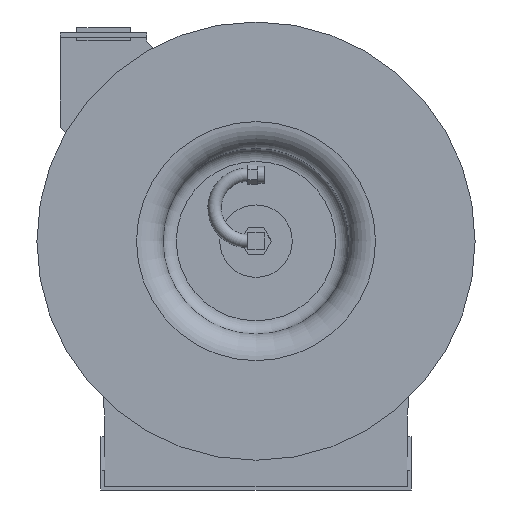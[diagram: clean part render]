
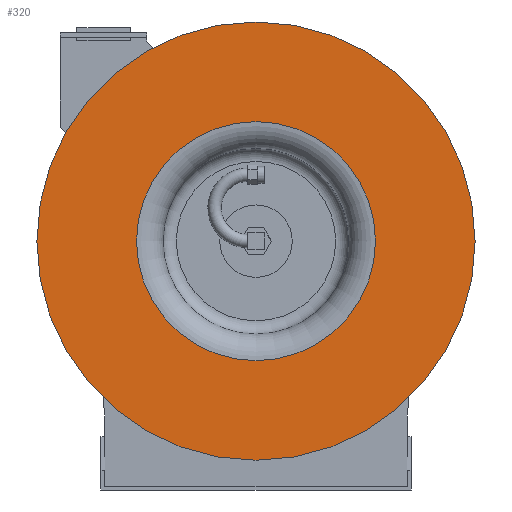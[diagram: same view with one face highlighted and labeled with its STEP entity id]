
A CAD part, front view. The second image highlights one B-rep face of the part: STEP entity #320.
In plain terms, the highlighted planar face has unit normal (0, -1, 0).
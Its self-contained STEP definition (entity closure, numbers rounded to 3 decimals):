
#320 = ADVANCED_FACE( '', ( #709, #710 ), #711, .F. );
#709 = FACE_BOUND( '', #1140, .T. );
#710 = FACE_OUTER_BOUND( '', #1141, .T. );
#711 = PLANE( '', #1142 );
#1140 = EDGE_LOOP( '', ( #1997 ) );
#1141 = EDGE_LOOP( '', ( #1998 ) );
#1142 = AXIS2_PLACEMENT_3D( '', #1999, #2000, #2001 );
#1997 = ORIENTED_EDGE( '', *, *, #2524, .F. );
#1998 = ORIENTED_EDGE( '', *, *, #2463, .T. );
#1999 = CARTESIAN_POINT( '', ( 0., -135.857, 209.55 ) );
#2000 = DIRECTION( '', ( 0., 1., 0. ) );
#2001 = DIRECTION( '', ( 0., 0., 1. ) );
#2463 = EDGE_CURVE( '', #2968, #2968, #2969, .T. );
#2524 = EDGE_CURVE( '', #3064, #3064, #3065, .T. );
#2968 = VERTEX_POINT( '', #3678 );
#2969 = CIRCLE( '', #3679, 209.55 );
#3064 = VERTEX_POINT( '', #3799 );
#3065 = CIRCLE( '', #3800, 114.3 );
#3678 = CARTESIAN_POINT( '', ( 0., -135.857, -209.55 ) );
#3679 = AXIS2_PLACEMENT_3D( '', #4239, #4240, #4241 );
#3799 = CARTESIAN_POINT( '', ( 0., -135.857, -114.3 ) );
#3800 = AXIS2_PLACEMENT_3D( '', #4327, #4328, #4329 );
#4239 = CARTESIAN_POINT( '', ( 0., -135.857, 0. ) );
#4240 = DIRECTION( '', ( 0., -1., 0. ) );
#4241 = DIRECTION( '', ( 0., 0., -1. ) );
#4327 = CARTESIAN_POINT( '', ( 0., -135.857, 0. ) );
#4328 = DIRECTION( '', ( 0., -1., 0. ) );
#4329 = DIRECTION( '', ( 0., 0., -1. ) );
